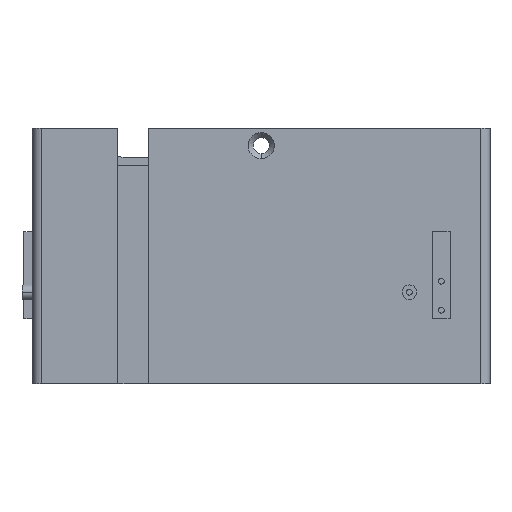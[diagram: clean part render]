
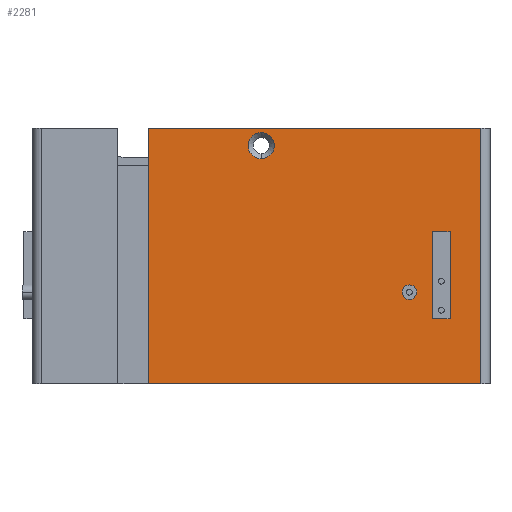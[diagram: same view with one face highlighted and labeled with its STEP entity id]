
A CAD part, front view. The second image highlights one B-rep face of the part: STEP entity #2281.
In plain terms, the highlighted planar face has unit normal (0, -1, 0).
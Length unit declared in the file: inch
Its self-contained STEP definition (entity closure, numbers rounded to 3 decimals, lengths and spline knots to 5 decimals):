
#117 = LINE ( 'NONE', #3773, #1356 ) ;
#230 = EDGE_CURVE ( 'NONE', #1832, #3474, #4546, .T. ) ;
#297 = VECTOR ( 'NONE', #2464, 39.37008 ) ;
#317 = CARTESIAN_POINT ( 'NONE',  ( 1.62481, -1.9685, 1.30815 ) ) ;
#409 = CARTESIAN_POINT ( 'NONE',  ( 0., -1.9685, 2.05 ) ) ;
#456 = EDGE_CURVE ( 'NONE', #3474, #511, #117, .T. ) ;
#475 = DIRECTION ( 'NONE',  ( 0., 0., -1. ) ) ;
#493 = CARTESIAN_POINT ( 'NONE',  ( 1.8895, -1.9685, 0. ) ) ;
#511 = VERTEX_POINT ( 'NONE', #6232 ) ;
#537 = EDGE_CURVE ( 'NONE', #1593, #2057, #2638, .T. ) ;
#574 = LINE ( 'NONE', #4230, #6170 ) ;
#647 = VERTEX_POINT ( 'NONE', #1791 ) ;
#650 = DIRECTION ( 'NONE',  ( 1., 0., 0. ) ) ;
#659 = CARTESIAN_POINT ( 'NONE',  ( -0.968, -1.9685, 2.2 ) ) ;
#960 = FACE_BOUND ( 'NONE', #2696, .T. ) ;
#990 = DIRECTION ( 'NONE',  ( 0., 0., -1. ) ) ;
#1013 = AXIS2_PLACEMENT_3D ( 'NONE', #5948, #2864, #1270 ) ;
#1104 = ORIENTED_EDGE ( 'NONE', *, *, #456, .T. ) ;
#1212 = DIRECTION ( 'NONE',  ( -1., 0., 0. ) ) ;
#1223 = CARTESIAN_POINT ( 'NONE',  ( -0.06075, -1.9685, 0. ) ) ;
#1270 = DIRECTION ( 'NONE',  ( 1., 0., 0. ) ) ;
#1356 = VECTOR ( 'NONE', #1212, 39.37008 ) ;
#1592 = DIRECTION ( 'NONE',  ( 0., 0., -1. ) ) ;
#1593 = VERTEX_POINT ( 'NONE', #4324 ) ;
#1649 = CARTESIAN_POINT ( 'NONE',  ( 0., -1.9685, 2.05 ) ) ;
#1659 = DIRECTION ( 'NONE',  ( 1., 0., 0. ) ) ;
#1791 = CARTESIAN_POINT ( 'NONE',  ( 1.2125, -1.9685, 0.78815 ) ) ;
#1832 = VERTEX_POINT ( 'NONE', #3947 ) ;
#1853 = CARTESIAN_POINT ( 'NONE',  ( 1.62481, -1.9685, 1.30815 ) ) ;
#1911 = ORIENTED_EDGE ( 'NONE', *, *, #230, .T. ) ;
#1996 = DIRECTION ( 'NONE',  ( 0., 0., -1. ) ) ;
#2017 = CARTESIAN_POINT ( 'NONE',  ( 0.46075, -1.9685, 0. ) ) ;
#2057 = VERTEX_POINT ( 'NONE', #2674 ) ;
#2070 = EDGE_CURVE ( 'NONE', #4211, #6633, #3926, .T. ) ;
#2085 = ORIENTED_EDGE ( 'NONE', *, *, #537, .F. ) ;
#2101 = EDGE_LOOP ( 'NONE', ( #1911, #1104, #2770, #3173 ) ) ;
#2185 = CARTESIAN_POINT ( 'NONE',  ( 1.275, -1.9685, 0.78815 ) ) ;
#2193 = DIRECTION ( 'NONE',  ( 1., 0., 0. ) ) ;
#2281 = ADVANCED_FACE ( 'NONE', ( #6131, #3553, #960, #3037 ), #2562, .T. ) ;
#2381 = ORIENTED_EDGE ( 'NONE', *, *, #4917, .T. ) ;
#2464 = DIRECTION ( 'NONE',  ( 1., 0., 0. ) ) ;
#2482 = EDGE_CURVE ( 'NONE', #647, #6226, #2870, .T. ) ;
#2562 = PLANE ( 'NONE',  #3523 ) ;
#2595 = DIRECTION ( 'NONE',  ( 0., -1., 0. ) ) ;
#2638 = LINE ( 'NONE', #493, #4854 ) ;
#2643 = ORIENTED_EDGE ( 'NONE', *, *, #2070, .F. ) ;
#2651 = CIRCLE ( 'NONE', #4627, 0.0625 ) ;
#2674 = CARTESIAN_POINT ( 'NONE',  ( 1.8895, -1.9685, 0. ) ) ;
#2681 = EDGE_CURVE ( 'NONE', #6633, #4211, #5195, .T. ) ;
#2696 = EDGE_LOOP ( 'NONE', ( #5630, #2643 ) ) ;
#2770 = ORIENTED_EDGE ( 'NONE', *, *, #4844, .T. ) ;
#2864 = DIRECTION ( 'NONE',  ( 0., -1., 0. ) ) ;
#2870 = CIRCLE ( 'NONE', #1013, 0.0625 ) ;
#3000 = VECTOR ( 'NONE', #1659, 39.37008 ) ;
#3037 = FACE_OUTER_BOUND ( 'NONE', #6539, .T. ) ;
#3173 = ORIENTED_EDGE ( 'NONE', *, *, #4250, .T. ) ;
#3195 = DIRECTION ( 'NONE',  ( 0., 0., 1. ) ) ;
#3244 = LINE ( 'NONE', #659, #5447 ) ;
#3261 = VERTEX_POINT ( 'NONE', #5519 ) ;
#3380 = LINE ( 'NONE', #317, #297 ) ;
#3412 = ORIENTED_EDGE ( 'NONE', *, *, #4966, .T. ) ;
#3474 = VERTEX_POINT ( 'NONE', #4959 ) ;
#3477 = CARTESIAN_POINT ( 'NONE',  ( 1.3375, -1.9685, 0.78815 ) ) ;
#3523 = AXIS2_PLACEMENT_3D ( 'NONE', #2017, #2595, #990 ) ;
#3553 = FACE_BOUND ( 'NONE', #2101, .T. ) ;
#3656 = AXIS2_PLACEMENT_3D ( 'NONE', #409, #6184, #475 ) ;
#3773 = CARTESIAN_POINT ( 'NONE',  ( 1.62481, -1.9685, 0.55815 ) ) ;
#3776 = DIRECTION ( 'NONE',  ( 0., 0., -1. ) ) ;
#3836 = CARTESIAN_POINT ( 'NONE',  ( 0., -1.9685, 2.1625 ) ) ;
#3926 = CIRCLE ( 'NONE', #4804, 0.1125 ) ;
#3947 = CARTESIAN_POINT ( 'NONE',  ( 1.62481, -1.9685, 1.30815 ) ) ;
#3992 = CARTESIAN_POINT ( 'NONE',  ( 0., -1.9685, 1.9375 ) ) ;
#4159 = ORIENTED_EDGE ( 'NONE', *, *, #6026, .F. ) ;
#4211 = VERTEX_POINT ( 'NONE', #3836 ) ;
#4230 = CARTESIAN_POINT ( 'NONE',  ( -0.968, -1.9685, 0. ) ) ;
#4250 = EDGE_CURVE ( 'NONE', #6725, #1832, #3380, .T. ) ;
#4270 = DIRECTION ( 'NONE',  ( 0., -1., 0. ) ) ;
#4324 = CARTESIAN_POINT ( 'NONE',  ( 1.8895, -1.9685, 2.2 ) ) ;
#4546 = LINE ( 'NONE', #1853, #6185 ) ;
#4627 = AXIS2_PLACEMENT_3D ( 'NONE', #2185, #4270, #650 ) ;
#4638 = CARTESIAN_POINT ( 'NONE',  ( 1.47481, -1.9685, 1.30815 ) ) ;
#4804 = AXIS2_PLACEMENT_3D ( 'NONE', #1649, #6298, #3776 ) ;
#4844 = EDGE_CURVE ( 'NONE', #511, #6725, #5159, .T. ) ;
#4846 = LINE ( 'NONE', #1223, #3000 ) ;
#4854 = VECTOR ( 'NONE', #1996, 39.37008 ) ;
#4917 = EDGE_CURVE ( 'NONE', #3261, #6197, #574, .T. ) ;
#4959 = CARTESIAN_POINT ( 'NONE',  ( 1.62481, -1.9685, 0.55815 ) ) ;
#4966 = EDGE_CURVE ( 'NONE', #6197, #2057, #4846, .T. ) ;
#5015 = ORIENTED_EDGE ( 'NONE', *, *, #2482, .F. ) ;
#5159 = LINE ( 'NONE', #6238, #6717 ) ;
#5195 = CIRCLE ( 'NONE', #3656, 0.1125 ) ;
#5447 = VECTOR ( 'NONE', #2193, 39.37008 ) ;
#5519 = CARTESIAN_POINT ( 'NONE',  ( -0.968, -1.9685, 2.2 ) ) ;
#5547 = DIRECTION ( 'NONE',  ( 0., 0., -1. ) ) ;
#5630 = ORIENTED_EDGE ( 'NONE', *, *, #2681, .F. ) ;
#5817 = ORIENTED_EDGE ( 'NONE', *, *, #6460, .F. ) ;
#5948 = CARTESIAN_POINT ( 'NONE',  ( 1.275, -1.9685, 0.78815 ) ) ;
#6026 = EDGE_CURVE ( 'NONE', #3261, #1593, #3244, .T. ) ;
#6123 = CARTESIAN_POINT ( 'NONE',  ( -0.968, -1.9685, 0. ) ) ;
#6131 = FACE_BOUND ( 'NONE', #6640, .T. ) ;
#6170 = VECTOR ( 'NONE', #1592, 39.37008 ) ;
#6184 = DIRECTION ( 'NONE',  ( 0., -1., 0. ) ) ;
#6185 = VECTOR ( 'NONE', #5547, 39.37008 ) ;
#6197 = VERTEX_POINT ( 'NONE', #6123 ) ;
#6226 = VERTEX_POINT ( 'NONE', #3477 ) ;
#6232 = CARTESIAN_POINT ( 'NONE',  ( 1.47481, -1.9685, 0.55815 ) ) ;
#6238 = CARTESIAN_POINT ( 'NONE',  ( 1.47481, -1.9685, 1.30815 ) ) ;
#6298 = DIRECTION ( 'NONE',  ( 0., -1., 0. ) ) ;
#6460 = EDGE_CURVE ( 'NONE', #6226, #647, #2651, .T. ) ;
#6539 = EDGE_LOOP ( 'NONE', ( #2085, #4159, #2381, #3412 ) ) ;
#6633 = VERTEX_POINT ( 'NONE', #3992 ) ;
#6640 = EDGE_LOOP ( 'NONE', ( #5015, #5817 ) ) ;
#6717 = VECTOR ( 'NONE', #3195, 39.37008 ) ;
#6725 = VERTEX_POINT ( 'NONE', #4638 ) ;
